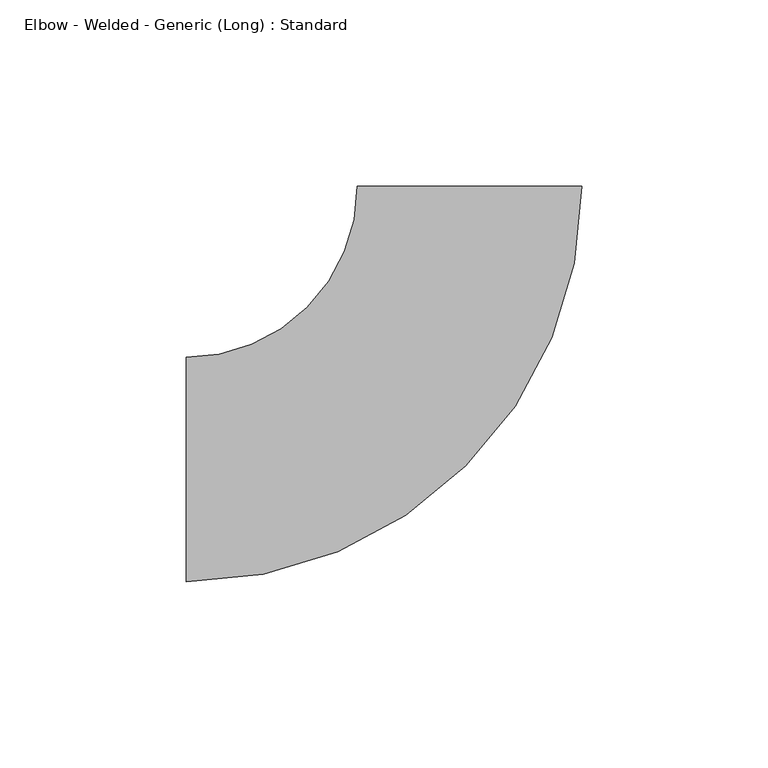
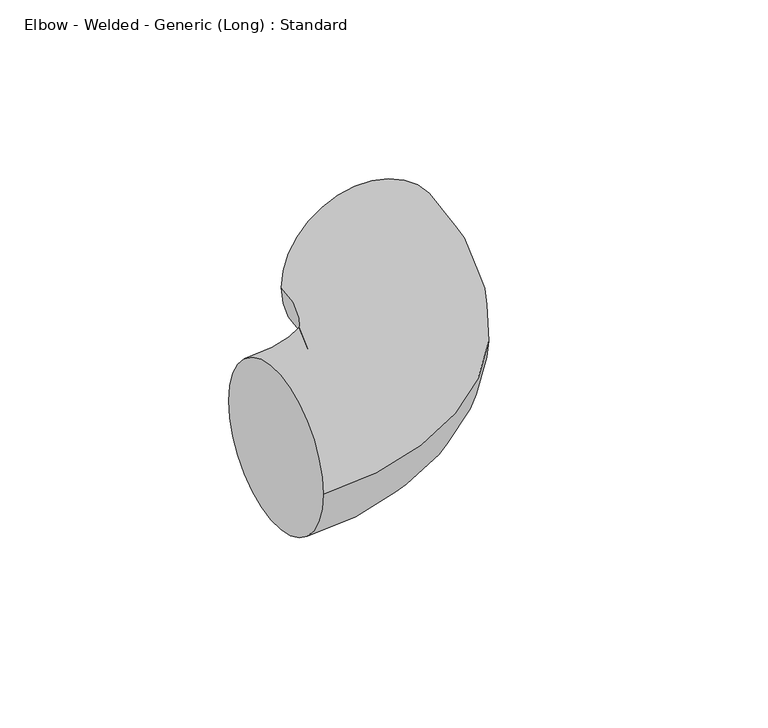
"""IFC4 building model written with IfcOpenShell, lengths in millimetres: pipe fitting geometry, Elbow - Welded - Generic (Long) : Standard."""

from ifc_helpers import new_model, si_unit, point, frame, origin, place, context, project, spatial, circle_curve, ellipse_curve, trimmed, source, transform, mapped, element, save
from ifc_brep_helpers import plane_surface, revolved_surface, advanced_brep


def elbow_welded_generic_long_standard_9ef22f6d(model_context):
    return source(origin(), model_context, "Body", "AdvancedBrep", [
        advanced_brep(
        [(-76.2, -30.1625, 0.0), (-76.2, 30.1625, 0.0), (30.1730464, 76.1958245, 0.0), (-30.151953, 76.204174, 0.0)],
        [
            (0, 1, circle_curve(frame((-76.2, 0.0, 0.0), z_axis=(-1.0, 0.0, 0.0), x_axis=(0.0, 1.0, 0.0)), 30.1625)),
            (1, 0, circle_curve(frame((-76.2, 0.0, 0.0), z_axis=(-1.0, 0.0, 0.0), x_axis=(0.0, 1.0, 0.0)), 30.1625)),
            (2, 3, circle_curve(frame((0.0105467, 76.1999993, 0.0), z_axis=(0.00013840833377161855, 0.9999999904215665, 0.0), x_axis=(-0.9999999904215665, 0.00013840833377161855, 0.0)), 30.1625)),
            (3, 2, circle_curve(frame((0.0105467, 76.1999993, 0.0), z_axis=(0.00013840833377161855, 0.9999999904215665, 0.0), x_axis=(-0.9999999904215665, 0.00013840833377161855, 0.0)), 30.1625)),
            (3, 1, circle_curve(frame((-76.2, 76.2105474, 0.0), z_axis=(0.0, 0.0, -1.0), x_axis=(0.0, -1.0, 0.0)), 46.0480474)),
            (0, 2, circle_curve(frame((-76.2, 76.2105474, 0.0), z_axis=(0.0, 0.0, 1.0), x_axis=(0.0, -1.0, 0.0)), 106.3730474)),
        ],
        [
            plane_surface(frame((-76.2, 0.0, 0.0), z_axis=(-1.0, 0.0, 0.0), x_axis=(0.0, 0.0, 1.0))),
            plane_surface(frame((0.0105467, 76.1999993, 0.0), z_axis=(0.00013840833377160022, 0.9999999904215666, 0.0), x_axis=(0.0, 0.0, 1.0))),
            revolved_surface(trimmed(ellipse_curve(frame((-76.2, 0.0, 0.0), z_axis=(-1.0, 0.0, 0.0), x_axis=(0.0, 1.0, 0.0)), 30.1625, 30.1625), [point((-76.2, -30.1625, 0.0))], [point((-76.2, 30.1625, 0.0))], True, "CARTESIAN"), (-76.2, 76.2105474, 0.0), (0.0, 0.0, 1.0)),
            revolved_surface(trimmed(ellipse_curve(frame((-76.2, 0.0, 0.0), z_axis=(-1.0, 0.0, 0.0), x_axis=(0.0, 1.0, 0.0)), 30.1625, 30.1625), [point((-76.2, 30.1625, 0.0))], [point((-76.2, -30.1625, 0.0))], True, "CARTESIAN"), (-76.2, 76.2105474, 0.0), (0.0, 0.0, 1.0)),
        ],
        [
            (0, [[1, 2]]),
            (1, [[3, 4]]),
            (2, [[5, -1, 6, -4]]),
            (3, [[-6, -2, -5, -3]]),
        ],
    ),
    ])


if __name__ == "__main__":
    model = new_model("IFC4")
    model_context = context("Model", 3, world=origin())
    ifc_project = project(units=[si_unit("LENGTHUNIT", "METRE", prefix="MILLI")], contexts=[model_context])
    site = spatial("IfcSite", under=ifc_project)
    building = spatial("IfcBuilding", under=site)
    placement = place(None, origin())
    elbow_welded_generic_long_standard_shape = elbow_welded_generic_long_standard_9ef22f6d(model_context)
    element("IfcPipeFitting", 1, ObjectType="Elbow - Welded - Generic (Long) : Standard", at=placement, inside=building, context=model_context, shape_type="MappedRepresentation", body=[
        mapped(elbow_welded_generic_long_standard_shape, transform((0.0, 0.0, 0.0), x_axis=(1.0, 0.0, 0.0), y_axis=(0.0, 1.0, 0.0), z_axis=(0.0, 0.0, 1.0))),
    ])
    save(model, "model.ifc")
